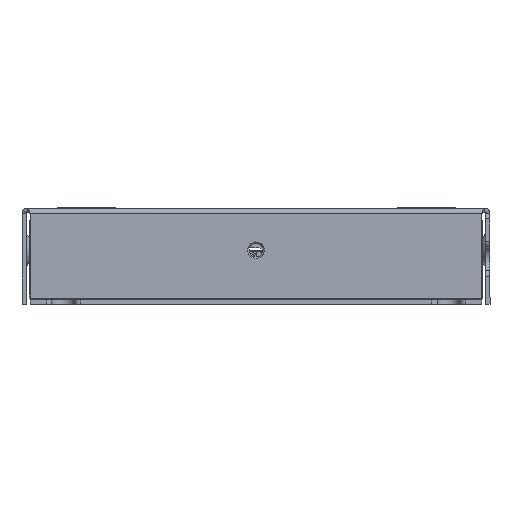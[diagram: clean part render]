
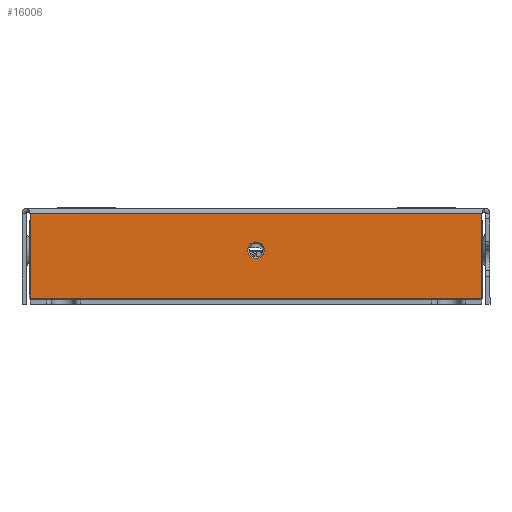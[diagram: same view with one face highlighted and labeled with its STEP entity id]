
A CAD part, front view. The second image highlights one B-rep face of the part: STEP entity #16006.
In plain terms, the highlighted planar face has unit normal (0, -1, 0).
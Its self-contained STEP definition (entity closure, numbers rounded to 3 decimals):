
#303 = CARTESIAN_POINT ( 'NONE',  ( -41.793, -55.3, 0.2 ) ) ;
#1235 = VECTOR ( 'NONE', #23994, 1000. ) ;
#1438 = VECTOR ( 'NONE', #4800, 1000. ) ;
#2892 = AXIS2_PLACEMENT_3D ( 'NONE', #75723, #29792, #63464 ) ;
#3817 = AXIS2_PLACEMENT_3D ( 'NONE', #24249, #4841, #68489 ) ;
#3963 = CARTESIAN_POINT ( 'NONE',  ( 41.793, -55.3, 0. ) ) ;
#4198 = EDGE_CURVE ( 'NONE', #65798, #74280, #41917, .T. ) ;
#4800 = DIRECTION ( 'NONE',  ( 0., 0., 1. ) ) ;
#4841 = DIRECTION ( 'NONE',  ( 0., -1., 0. ) ) ;
#6230 = CARTESIAN_POINT ( 'NONE',  ( 0., -55.3, 5.475 ) ) ;
#6280 = ORIENTED_EDGE ( 'NONE', *, *, #71589, .T. ) ;
#8620 = ORIENTED_EDGE ( 'NONE', *, *, #73903, .F. ) ;
#12597 = VERTEX_POINT ( 'NONE', #36861 ) ;
#13480 = DIRECTION ( 'NONE',  ( 0., 0., 1. ) ) ;
#16006 = ADVANCED_FACE ( 'NONE', ( #53061, #58545 ), #79204, .F. ) ;
#17131 = CARTESIAN_POINT ( 'NONE',  ( 41.793, -55.3, 16. ) ) ;
#21461 = DIRECTION ( 'NONE',  ( 0., 1., 0. ) ) ;
#22526 = DIRECTION ( 'NONE',  ( -1., 0., 0. ) ) ;
#23563 = DIRECTION ( 'NONE',  ( 1., 0., 0. ) ) ;
#23994 = DIRECTION ( 'NONE',  ( 0., 0., 1. ) ) ;
#24249 = CARTESIAN_POINT ( 'NONE',  ( 0., -55.3, 7. ) ) ;
#25163 = VERTEX_POINT ( 'NONE', #6230 ) ;
#26628 = EDGE_CURVE ( 'NONE', #12597, #25163, #72883, .T. ) ;
#29792 = DIRECTION ( 'NONE',  ( 0., -1., 0. ) ) ;
#30337 = VECTOR ( 'NONE', #22526, 1000. ) ;
#30538 = EDGE_CURVE ( 'NONE', #25163, #12597, #49647, .T. ) ;
#32905 = EDGE_LOOP ( 'NONE', ( #56465, #36869 ) ) ;
#35620 = LINE ( 'NONE', #3963, #1438 ) ;
#36861 = CARTESIAN_POINT ( 'NONE',  ( 0., -55.3, 8.525 ) ) ;
#36869 = ORIENTED_EDGE ( 'NONE', *, *, #26628, .F. ) ;
#39809 = AXIS2_PLACEMENT_3D ( 'NONE', #78792, #21461, #13480 ) ;
#41917 = LINE ( 'NONE', #80290, #30337 ) ;
#42238 = CARTESIAN_POINT ( 'NONE',  ( 41.793, -55.3, 0.2 ) ) ;
#49647 = CIRCLE ( 'NONE', #3817, 1.525 ) ;
#51312 = VERTEX_POINT ( 'NONE', #75006 ) ;
#53061 = FACE_BOUND ( 'NONE', #32905, .T. ) ;
#55581 = LINE ( 'NONE', #74990, #60835 ) ;
#56381 = EDGE_CURVE ( 'NONE', #74280, #51312, #81759, .T. ) ;
#56465 = ORIENTED_EDGE ( 'NONE', *, *, #30538, .F. ) ;
#58545 = FACE_OUTER_BOUND ( 'NONE', #62499, .T. ) ;
#60835 = VECTOR ( 'NONE', #23563, 1000. ) ;
#62499 = EDGE_LOOP ( 'NONE', ( #8620, #69099, #69942, #6280 ) ) ;
#63464 = DIRECTION ( 'NONE',  ( 0., 0., -1. ) ) ;
#65798 = VERTEX_POINT ( 'NONE', #42238 ) ;
#68489 = DIRECTION ( 'NONE',  ( 0., 0., -1. ) ) ;
#69099 = ORIENTED_EDGE ( 'NONE', *, *, #56381, .F. ) ;
#69491 = CARTESIAN_POINT ( 'NONE',  ( -41.793, -55.3, 0. ) ) ;
#69942 = ORIENTED_EDGE ( 'NONE', *, *, #4198, .F. ) ;
#71589 = EDGE_CURVE ( 'NONE', #65798, #81452, #35620, .T. ) ;
#72883 = CIRCLE ( 'NONE', #2892, 1.525 ) ;
#73903 = EDGE_CURVE ( 'NONE', #51312, #81452, #55581, .T. ) ;
#74280 = VERTEX_POINT ( 'NONE', #303 ) ;
#74990 = CARTESIAN_POINT ( 'NONE',  ( -41.793, -55.3, 16. ) ) ;
#75006 = CARTESIAN_POINT ( 'NONE',  ( -41.793, -55.3, 16. ) ) ;
#75723 = CARTESIAN_POINT ( 'NONE',  ( 0., -55.3, 7. ) ) ;
#78792 = CARTESIAN_POINT ( 'NONE',  ( 0., -55.3, 0. ) ) ;
#79204 = PLANE ( 'NONE',  #39809 ) ;
#80290 = CARTESIAN_POINT ( 'NONE',  ( 0., -55.3, 0.2 ) ) ;
#81452 = VERTEX_POINT ( 'NONE', #17131 ) ;
#81759 = LINE ( 'NONE', #69491, #1235 ) ;
